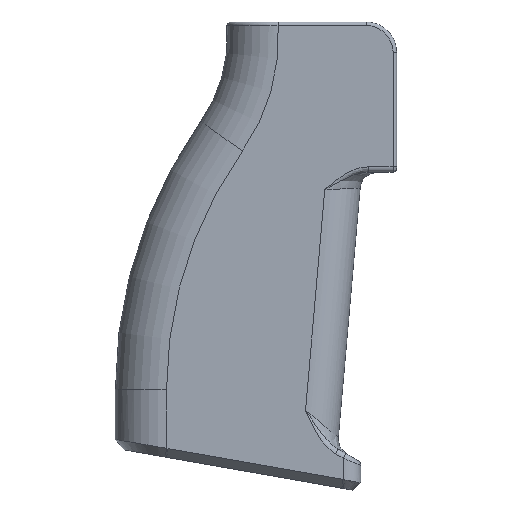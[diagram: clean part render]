
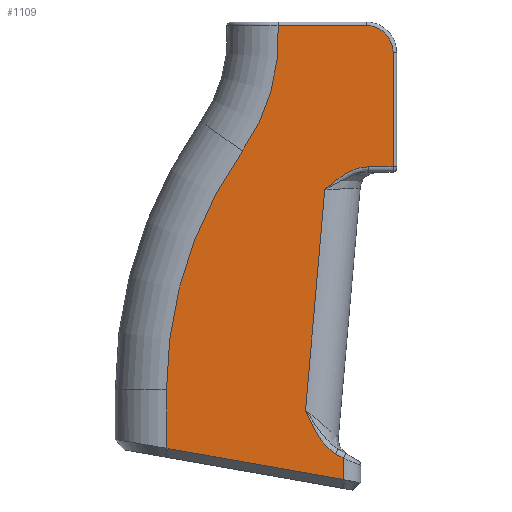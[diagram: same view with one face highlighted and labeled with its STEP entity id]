
A CAD part, left-side view. The second image highlights one B-rep face of the part: STEP entity #1109.
In plain terms, the highlighted planar face has unit normal (-1, 0, 0).
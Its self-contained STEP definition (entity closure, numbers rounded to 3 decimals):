
#49=B_SPLINE_CURVE_WITH_KNOTS('',3,(#2412,#2413,#2414,#2415,#2416,#2417,
#2418,#2419),.UNSPECIFIED.,.F.,.F.,(4,2,1,1,4),(-0.002,0.,
0.7,0.933,1.166),.UNSPECIFIED.);
#50=B_SPLINE_CURVE_WITH_KNOTS('',3,(#2422,#2423,#2424,#2425,#2426,#2427,
#2428,#2429,#2430,#2431,#2432,#2433),.UNSPECIFIED.,.F.,.F.,(4,1,1,1,1,1,
1,2,4),(0.,0.217,0.325,0.434,0.542,
0.65,0.867,1.084,1.085),
 .UNSPECIFIED.);
#81=LINE('',#1583,#163);
#82=LINE('',#1594,#164);
#94=LINE('',#1872,#176);
#137=LINE('',#2319,#219);
#140=LINE('',#2339,#222);
#146=LINE('',#2401,#228);
#147=LINE('',#2408,#229);
#148=LINE('',#2410,#230);
#149=LINE('',#2421,#231);
#163=VECTOR('',#1279,10.);
#164=VECTOR('',#1292,10.);
#176=VECTOR('',#1348,10.);
#219=VECTOR('',#1451,10.);
#222=VECTOR('',#1454,10.);
#228=VECTOR('',#1470,10.);
#229=VECTOR('',#1479,10.);
#230=VECTOR('',#1480,10.);
#231=VECTOR('',#1481,10.);
#308=FACE_OUTER_BOUND('',#380,.T.);
#380=EDGE_LOOP('',(#908,#909,#910,#911,#912,#913,#914,#915,#916,#917,#918,
#919,#920,#921));
#413=CIRCLE('',#1159,5.842);
#442=CIRCLE('',#1222,42.863);
#443=CIRCLE('',#1223,89.884);
#457=VERTEX_POINT('',#1576);
#460=VERTEX_POINT('',#1581);
#462=VERTEX_POINT('',#1586);
#464=VERTEX_POINT('',#1592);
#482=VERTEX_POINT('',#1871);
#522=VERTEX_POINT('',#2146);
#524=VERTEX_POINT('',#2316);
#525=VERTEX_POINT('',#2318);
#533=VERTEX_POINT('',#2400);
#534=VERTEX_POINT('',#2404);
#535=VERTEX_POINT('',#2407);
#536=VERTEX_POINT('',#2409);
#537=VERTEX_POINT('',#2411);
#538=VERTEX_POINT('',#2420);
#560=EDGE_CURVE('',#460,#457,#81,.T.);
#562=EDGE_CURVE('',#462,#460,#413,.T.);
#565=EDGE_CURVE('',#464,#462,#82,.T.);
#594=EDGE_CURVE('',#457,#482,#94,.T.);
#657=EDGE_CURVE('',#524,#525,#137,.T.);
#660=EDGE_CURVE('',#525,#522,#140,.T.);
#672=EDGE_CURVE('',#522,#533,#146,.T.);
#674=EDGE_CURVE('',#534,#464,#442,.T.);
#675=EDGE_CURVE('',#533,#534,#443,.T.);
#676=EDGE_CURVE('',#535,#524,#147,.T.);
#677=EDGE_CURVE('',#536,#535,#148,.T.);
#678=EDGE_CURVE('',#537,#536,#49,.T.);
#679=EDGE_CURVE('',#538,#537,#149,.T.);
#680=EDGE_CURVE('',#482,#538,#50,.T.);
#908=ORIENTED_EDGE('',*,*,#565,.F.);
#909=ORIENTED_EDGE('',*,*,#674,.F.);
#910=ORIENTED_EDGE('',*,*,#675,.F.);
#911=ORIENTED_EDGE('',*,*,#672,.F.);
#912=ORIENTED_EDGE('',*,*,#660,.F.);
#913=ORIENTED_EDGE('',*,*,#657,.F.);
#914=ORIENTED_EDGE('',*,*,#676,.F.);
#915=ORIENTED_EDGE('',*,*,#677,.F.);
#916=ORIENTED_EDGE('',*,*,#678,.F.);
#917=ORIENTED_EDGE('',*,*,#679,.F.);
#918=ORIENTED_EDGE('',*,*,#680,.F.);
#919=ORIENTED_EDGE('',*,*,#594,.F.);
#920=ORIENTED_EDGE('',*,*,#560,.F.);
#921=ORIENTED_EDGE('',*,*,#562,.F.);
#1061=PLANE('',#1221);
#1109=ADVANCED_FACE('',(#308),#1061,.T.);
#1159=AXIS2_PLACEMENT_3D('',#1588,#1284,#1285);
#1221=AXIS2_PLACEMENT_3D('',#2403,#1473,#1474);
#1222=AXIS2_PLACEMENT_3D('',#2405,#1475,#1476);
#1223=AXIS2_PLACEMENT_3D('',#2406,#1477,#1478);
#1279=DIRECTION('',(0.,0.,-1.));
#1284=DIRECTION('center_axis',(1.,0.,0.));
#1285=DIRECTION('ref_axis',(0.,-0.707,0.707));
#1292=DIRECTION('',(0.,-1.,0.));
#1348=DIRECTION('',(0.,1.,0.));
#1451=DIRECTION('',(0.,0.985,0.174));
#1454=DIRECTION('',(0.,0.985,0.174));
#1470=DIRECTION('',(0.,0.,1.));
#1473=DIRECTION('center_axis',(-1.,0.,0.));
#1474=DIRECTION('ref_axis',(0.,-1.,0.));
#1475=DIRECTION('center_axis',(-1.,0.,0.));
#1476=DIRECTION('ref_axis',(0.,-0.968,-0.253));
#1477=DIRECTION('center_axis',(1.,0.,0.));
#1478=DIRECTION('ref_axis',(0.,0.953,0.303));
#1479=DIRECTION('',(0.,0.,-1.));
#1480=DIRECTION('',(0.,-0.866,-0.5));
#1481=DIRECTION('',(0.,0.087,-0.996));
#1576=CARTESIAN_POINT('',(-10.5,9.268,-112.301));
#1581=CARTESIAN_POINT('',(-10.5,9.268,-87.434));
#1583=CARTESIAN_POINT('',(-10.5,9.268,-122.635));
#1586=CARTESIAN_POINT('',(-10.5,15.11,-81.592));
#1588=CARTESIAN_POINT('Origin',(-10.5,15.11,-87.434));
#1592=CARTESIAN_POINT('',(-10.5,34.233,-81.592));
#1594=CARTESIAN_POINT('',(-10.5,27.08,-81.592));
#1871=CARTESIAN_POINT('',(-10.5,14.655,-112.301));
#1872=CARTESIAN_POINT('',(-10.5,27.588,-112.301));
#2146=CARTESIAN_POINT('',(-10.5,58.483,-173.45));
#2316=CARTESIAN_POINT('',(-10.5,20.114,-180.216));
#2318=CARTESIAN_POINT('',(-10.5,58.153,-173.509));
#2319=CARTESIAN_POINT('',(-10.5,58.01,-173.534));
#2339=CARTESIAN_POINT('',(-10.5,58.153,-173.509));
#2400=CARTESIAN_POINT('',(-10.5,58.483,-160.725));
#2401=CARTESIAN_POINT('',(-10.5,58.483,-146.276));
#2403=CARTESIAN_POINT('Origin',(-10.5,39.051,-131.826));
#2404=CARTESIAN_POINT('',(-10.5,42.012,-108.863));
#2405=CARTESIAN_POINT('Origin',(-10.5,77.021,-84.132));
#2406=CARTESIAN_POINT('Origin',(-10.5,-31.401,-160.725));
#2407=CARTESIAN_POINT('',(-10.5,20.114,-175.592));
#2408=CARTESIAN_POINT('',(-10.5,20.114,-157.324));
#2409=CARTESIAN_POINT('',(-10.5,21.776,-174.632));
#2410=CARTESIAN_POINT('',(-10.5,35.071,-166.956));
#2411=CARTESIAN_POINT('',(-10.5,28.298,-165.147));
#2412=CARTESIAN_POINT('Ctrl Pts',(-10.5,28.298,-165.147));
#2413=CARTESIAN_POINT('Ctrl Pts',(-10.5,28.296,-165.152));
#2414=CARTESIAN_POINT('Ctrl Pts',(-10.5,28.294,-165.157));
#2415=CARTESIAN_POINT('Ctrl Pts',(-10.5,27.367,-167.294));
#2416=CARTESIAN_POINT('Ctrl Pts',(-10.5,26.136,-170.21));
#2417=CARTESIAN_POINT('Ctrl Pts',(-10.5,23.689,-173.259));
#2418=CARTESIAN_POINT('Ctrl Pts',(-10.5,22.449,-174.244));
#2419=CARTESIAN_POINT('Ctrl Pts',(-10.5,21.776,-174.632));
#2420=CARTESIAN_POINT('',(-10.5,24.108,-117.254));
#2421=CARTESIAN_POINT('',(-10.5,27.231,-152.944));
#2422=CARTESIAN_POINT('Ctrl Pts',(-10.5,14.655,-112.301));
#2423=CARTESIAN_POINT('Ctrl Pts',(-10.5,15.377,-112.301));
#2424=CARTESIAN_POINT('Ctrl Pts',(-10.5,16.47,-112.464));
#2425=CARTESIAN_POINT('Ctrl Pts',(-10.5,17.846,-112.925));
#2426=CARTESIAN_POINT('Ctrl Pts',(-10.5,18.832,-113.368));
#2427=CARTESIAN_POINT('Ctrl Pts',(-10.5,19.78,-113.895));
#2428=CARTESIAN_POINT('Ctrl Pts',(-10.5,20.999,-114.687));
#2429=CARTESIAN_POINT('Ctrl Pts',(-10.5,22.449,-115.812));
#2430=CARTESIAN_POINT('Ctrl Pts',(-10.5,23.554,-116.772));
#2431=CARTESIAN_POINT('Ctrl Pts',(-10.5,24.102,-117.248));
#2432=CARTESIAN_POINT('Ctrl Pts',(-10.5,24.105,-117.251));
#2433=CARTESIAN_POINT('Ctrl Pts',(-10.5,24.108,-117.254));
